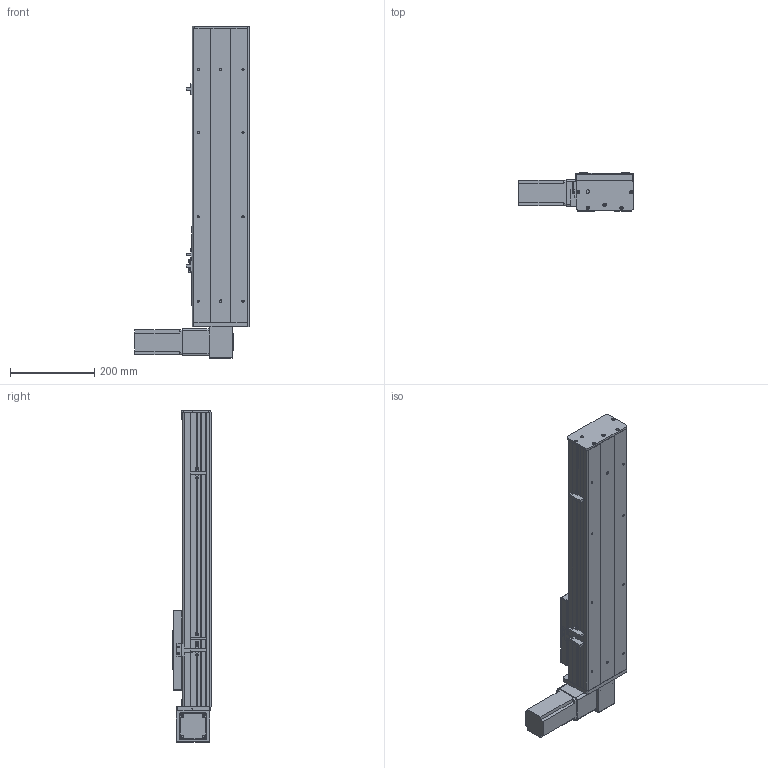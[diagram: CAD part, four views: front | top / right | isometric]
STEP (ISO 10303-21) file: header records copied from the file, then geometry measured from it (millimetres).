
FILE_DESCRIPTION (( 'STEP AP203' ), '1' );
FILE_NAME ('Y135CB-D90-S400-BD-P400W.STEP', '2020-02-19T02:54:50', ( '微软用户' ), ( '微软中国' ), 'SwSTEP 2.0', 'SolidWorks 2017', '' );
FILE_SCHEMA (( 'CONFIG_CONTROL_DESIGN' ));
Length unit declared in the file: millimetre
Products named in the file (16): 135CB--詩湍-CE; 35CB---喘謫眊楊擘啣; Y100-135俋离換覜ん--; 0B-埴倛裔啣; Y135C-陔俋离換覜結え-; 0B-源倛裔啣; 5C--俋欶; C-雄赽釱--; Y10B--々湍喘謫眊--666; 0B-薊粣ん眊; 5CB --掛极耜裔啣-; Y135CB-耜裔; san松下电机400不带刹车----; Y135CB-D90-S400-BD-P400W; C-詩湍揤踡え-陔; 135CB---遴掛极.-
Assembly tree (19 placements, depth 2):
  Y135CB-D90-S400-BD-P400W
    Y135CB-耜裔
    135CB---遴掛极.-
    35CB---喘謫眊楊擘啣
    0B-埴倛裔啣
    0B-源倛裔啣
    san松下电机400不带刹车----
    5CB --掛极耜裔啣-  x2
    C-詩湍揤踡え-陔  x2
    135CB--詩湍-CE
    Y100-135俋离換覜ん--  x3
    Y135C-陔俋离換覜結え-
    5C--俋欶
    C-雄赽釱--
    Y10B--々湍喘謫眊--666
    0B-薊粣ん眊
Bounding box: 272 x 91 x 788 mm (x, y, z)
Volume: 2828645.6 mm3; surface area: 1046984.1 mm2
Topology: 19 solids, 19 shells, 843 faces, 2212 edges, 1464 vertices
Faces by surface type: plane 415, cylinder 412, cone 16
Entity records: 25400 total; most frequent: DIRECTION 4232, CARTESIAN_POINT 4115, ORIENTED_EDGE 3900, EDGE_CURVE 1950, AXIS2_PLACEMENT_3D 1545, VERTEX_POINT 1292, VECTOR 1142, LINE 1142
